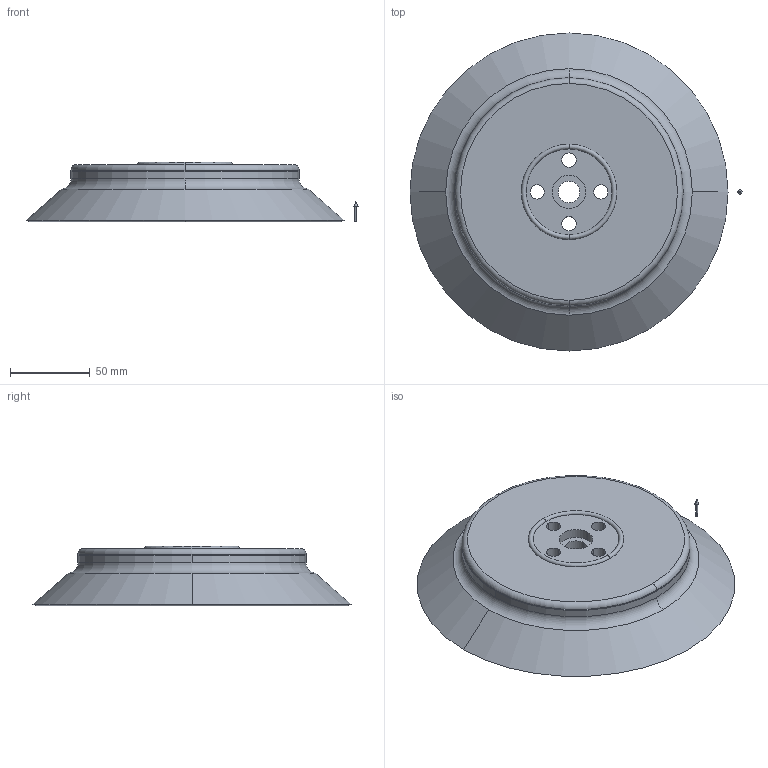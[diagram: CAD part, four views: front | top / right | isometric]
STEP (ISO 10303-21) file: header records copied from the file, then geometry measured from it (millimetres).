
FILE_DESCRIPTION(('STEP AP214'),'1');
FILE_NAME('10_01_01_00335.stp','2020-10-24T00:20:46',('TraceParts'),('TraceParts S.A.'),'Spatial InterOp 3D',' ',' ');
FILE_SCHEMA(('AUTOMOTIVE_DESIGN { 1 0 10303 214 1 1 1 1 }'));
Length unit declared in the file: millimetre
Products named in the file (1): 10_01_01_00335_1
Bounding box: 208.8 x 200 x 37.5 mm (x, y, z)
Volume: 404538.1 mm3; surface area: 80680.9 mm2
Topology: 2 solids, 2 shells, 71 faces, 170 edges, 109 vertices
Faces by surface type: cylinder 30, torus 20, plane 11, cone 10
Entity records: 2726 total; most frequent: DIRECTION 442, CARTESIAN_POINT 350, ORIENTED_EDGE 336, AXIS2_PLACEMENT_3D 201, EDGE_CURVE 168, CIRCLE 128, VERTEX_POINT 109, EDGE_LOOP 89
